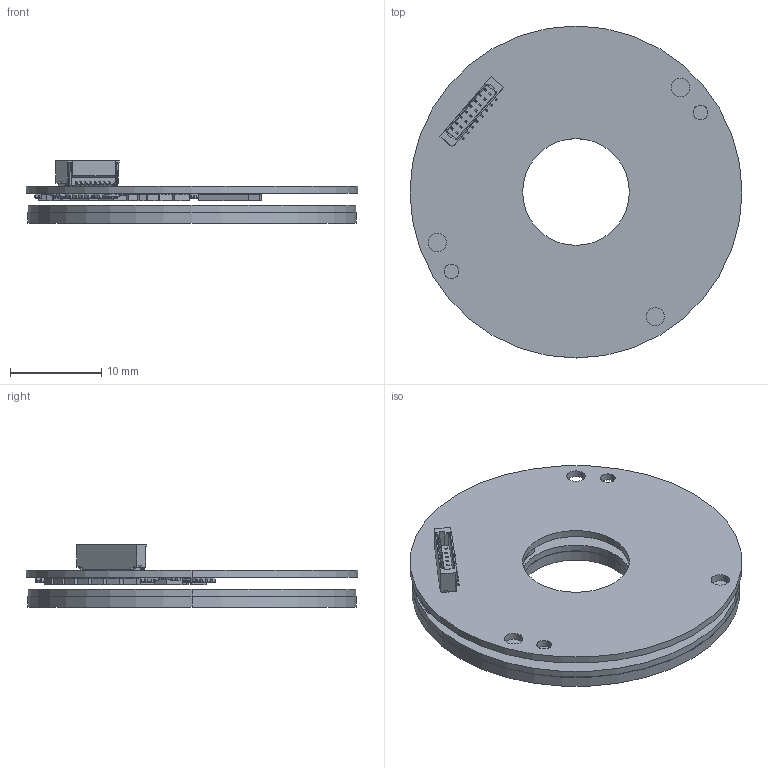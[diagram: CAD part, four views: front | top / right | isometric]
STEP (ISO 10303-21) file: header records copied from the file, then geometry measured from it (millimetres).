
FILE_DESCRIPTION((''),'2;1');
FILE_NAME('EAS-J048KP-HD----PRBS摩傖_48杶璃_ASM','2026-09-02T',('guxinfeng'),(''),'PRO/ENGINEER BY PARAMETRIC TECHNOLOGY CORPORATION, 2012480','PRO/ENGINEER BY PARAMETRIC TECHNOLOGY CORPORATION, 2012480','');
FILE_SCHEMA(('CONFIG_CONTROL_DESIGN'));
Products named in the file (262): OPEN_CASCADE_STEP_TRANSLATO-298; BOARD_ASM; OPEN_CASCADE_STEP_TRANSLATO-669; OPEN_CASCADE_STEP_TRANSLAT-1142; TERMINAL-655_ASM; OPEN_CASCADE_STEP_TRANSLAT-1638; MID_BODY-1628_ASM; 6830173776_ASM; C20_ASM; OPEN_CASCADE_STEP_TRANSLAT-2024; OPEN_CASCADE_STEP_TRANSLAT-2497; TERMINAL-2010_ASM; OPEN_CASCADE_STEP_TRANSLAT-2993; MID_BODY-2983_ASM; 6830172736_ASM; C2_ASM; OPEN_CASCADE_STEP_TRANSLAT-3379; OPEN_CASCADE_STEP_TRANSLAT-3852; TERMINAL-3365_ASM; OPEN_CASCADE_STEP_TRANSLAT-4348; MID_BODY-4338_ASM; 7006554592_ASM; C1_ASM; OPEN_CASCADE_STEP_TRANSLAT-4734; OPEN_CASCADE_STEP_TRANSLAT-5207; TERMINAL-4720_ASM; OPEN_CASCADE_STEP_TRANSLAT-5703; MID_BODY-5693_ASM; 7006556512_ASM; C10_ASM; MID_BODY-6076; OPEN_CASCADE_STEP_TRANSLAT-6262; TERMINAL-6252_ASM; MARK-6574; 7006548752_ASM; R3_ASM; MID_BODY-6801; OPEN_CASCADE_STEP_TRANSLAT-6987; TERMINAL-6977_ASM; MARK-7299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
Assembly tree (301 placements, depth 8):
  EAS-J048KP-HD----PRBS摩傖_48杶璃_ASM
    PCB_ASM
      BOARD_ASM
        OPEN_CASCADE_STEP_TRANSLATO-298
      C20_ASM
        6830173776_ASM
          TERMINAL-655_ASM
            OPEN_CASCADE_STEP_TRANSLATO-669
            OPEN_CASCADE_STEP_TRANSLAT-1142
          MID_BODY-1628_ASM
            OPEN_CASCADE_STEP_TRANSLAT-1638
      C2_ASM
        6830172736_ASM
          TERMINAL-2010_ASM
            OPEN_CASCADE_STEP_TRANSLAT-2024
            OPEN_CASCADE_STEP_TRANSLAT-2497
          MID_BODY-2983_ASM
            OPEN_CASCADE_STEP_TRANSLAT-2993
      C1_ASM
        7006554592_ASM
          TERMINAL-3365_ASM
            OPEN_CASCADE_STEP_TRANSLAT-3379
            OPEN_CASCADE_STEP_TRANSLAT-3852
          MID_BODY-4338_ASM
            OPEN_CASCADE_STEP_TRANSLAT-4348
      C10_ASM
        7006556512_ASM
          TERMINAL-4720_ASM
            OPEN_CASCADE_STEP_TRANSLAT-4734
            OPEN_CASCADE_STEP_TRANSLAT-5207
          MID_BODY-5693_ASM
            OPEN_CASCADE_STEP_TRANSLAT-5703
      R3_ASM
        7006548752_ASM
          MID_BODY-6076
          TERMINAL-6252_ASM  x2
            OPEN_CASCADE_STEP_TRANSLAT-6262
          MARK-6574
      R2_ASM
        7006552032_ASM
          MID_BODY-6801
          TERMINAL-6977_ASM  x2
            OPEN_CASCADE_STEP_TRANSLAT-6987
          MARK-7299
      C28_ASM
        7006554832_ASM
          TERMINAL-7525_ASM
            OPEN_CASCADE_STEP_TRANSLAT-7539
            OPEN_CASCADE_STEP_TRANSLAT-8012
          MID_BODY-8498_ASM
            OPEN_CASCADE_STEP_TRANSLAT-8508
      C29_ASM
        7006554832_ASM
          TERMINAL-7525_ASM
            OPEN_CASCADE_STEP_TRANSLAT-7539
            OPEN_CASCADE_STEP_TRANSLAT-8012
          MID_BODY-8498_ASM
            OPEN_CASCADE_STEP_TRANSLAT-8508
      C30_ASM
        7006554832_ASM
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Bounding box: 36.4 x 36.4 x 6.84 mm (x, y, z)
Volume: 2300.9 mm3; surface area: 6239.3 mm2
Topology: 188 solids, 193 shells, 4659 faces, 12487 edges, 7976 vertices
Faces by surface type: plane 3413, cylinder 940, sphere 200, extrusion 94, torus 8, cone 4
Entity records: 135012 total; most frequent: CARTESIAN_POINT 19190, DIRECTION 17513, ORIENTED_EDGE 16990, PRESENTATION_STYLE_ASSIGNMENT 8985, STYLED_ITEM 8618, EDGE_CURVE 8495, CURVE_STYLE 8436, VECTOR 7025
